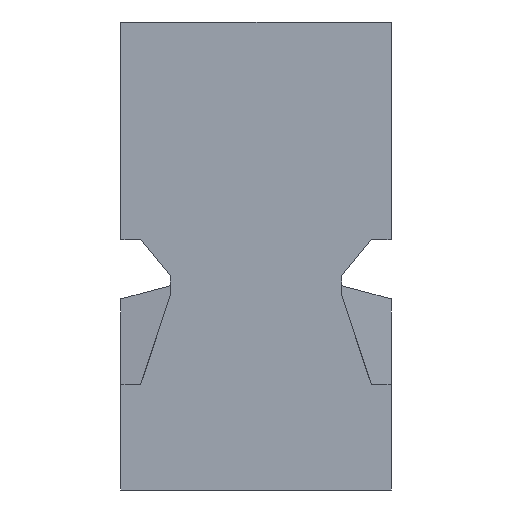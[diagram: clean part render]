
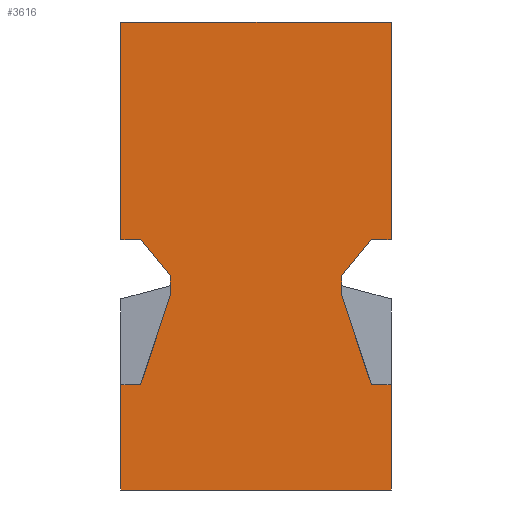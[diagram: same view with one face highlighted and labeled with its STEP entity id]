
A CAD part, left-side view. The second image highlights one B-rep face of the part: STEP entity #3616.
In plain terms, the highlighted planar face has unit normal (-1, 0, 0).
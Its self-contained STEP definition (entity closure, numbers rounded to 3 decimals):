
#1=DIRECTION('',(0.,0.,1.));
#2=VECTOR('',#1,1.6);
#3=CARTESIAN_POINT('',(-5.2,0.,-7.1));
#4=LINE('311',#3,#2);
#5=DIRECTION('',(0.,-1.,0.));
#6=VECTOR('',#5,0.3);
#7=CARTESIAN_POINT('',(-5.2,0.,-5.5));
#8=LINE('350',#7,#6);
#9=DIRECTION('',(0.,-0.316,0.949));
#10=VECTOR('',#9,1.423);
#11=CARTESIAN_POINT('',(-5.2,-0.3,-5.5));
#12=LINE('351',#11,#10);
#13=DIRECTION('',(0.,0.,1.));
#14=VECTOR('',#13,0.3);
#15=CARTESIAN_POINT('',(-5.2,-0.75,-4.15));
#16=LINE('312',#15,#14);
#17=DIRECTION('',(0.,0.633,0.774));
#18=VECTOR('',#17,0.711);
#19=CARTESIAN_POINT('',(-5.2,-0.75,-3.85));
#20=LINE('313',#19,#18);
#21=DIRECTION('',(0.,1.,0.));
#22=VECTOR('',#21,0.3);
#23=CARTESIAN_POINT('',(-5.2,-0.3,-3.3));
#24=LINE('314',#23,#22);
#25=DIRECTION('',(0.,0.,1.));
#26=VECTOR('',#25,3.3);
#27=CARTESIAN_POINT('',(-5.2,0.,-3.3));
#28=LINE('315',#27,#26);
#29=DIRECTION('',(0.,-1.,0.));
#30=VECTOR('',#29,4.1);
#31=CARTESIAN_POINT('',(-5.2,0.,0.));
#32=LINE('240',#31,#30);
#33=DIRECTION('',(0.,0.,-1.));
#34=VECTOR('',#33,3.3);
#35=CARTESIAN_POINT('',(-5.2,-4.1,0.));
#36=LINE('332',#35,#34);
#37=DIRECTION('',(0.,1.,0.));
#38=VECTOR('',#37,0.3);
#39=CARTESIAN_POINT('',(-5.2,-4.1,-3.3));
#40=LINE('333',#39,#38);
#41=DIRECTION('',(0.,0.633,-0.774));
#42=VECTOR('',#41,0.711);
#43=CARTESIAN_POINT('',(-5.2,-3.8,-3.3));
#44=LINE('334',#43,#42);
#45=DIRECTION('',(0.,0.,-1.));
#46=VECTOR('',#45,0.3);
#47=CARTESIAN_POINT('',(-5.2,-3.35,-3.85));
#48=LINE('335',#47,#46);
#49=DIRECTION('',(0.,-0.316,-0.949));
#50=VECTOR('',#49,1.423);
#51=CARTESIAN_POINT('',(-5.2,-3.35,-4.15));
#52=LINE('352',#51,#50);
#53=DIRECTION('',(0.,-1.,0.));
#54=VECTOR('',#53,0.3);
#55=CARTESIAN_POINT('',(-5.2,-3.8,-5.5));
#56=LINE('353',#55,#54);
#57=DIRECTION('',(0.,0.,-1.));
#58=VECTOR('',#57,1.6);
#59=CARTESIAN_POINT('',(-5.2,-4.1,-5.5));
#60=LINE('241',#59,#58);
#61=DIRECTION('',(0.,1.,0.));
#62=VECTOR('',#61,4.1);
#63=CARTESIAN_POINT('',(-5.2,-4.1,-7.1));
#64=LINE('242',#63,#62);
#2713=CARTESIAN_POINT('',(-5.2,0.,0.));
#2714=CARTESIAN_POINT('',(-5.2,-4.1,0.));
#2715=VERTEX_POINT('',#2713);
#2716=VERTEX_POINT('',#2714);
#2717=CARTESIAN_POINT('',(-5.2,-4.1,-5.5));
#2718=CARTESIAN_POINT('',(-5.2,-4.1,-7.1));
#2719=VERTEX_POINT('',#2717);
#2720=VERTEX_POINT('',#2718);
#2721=CARTESIAN_POINT('',(-5.2,0.,-7.1));
#2722=VERTEX_POINT('',#2721);
#2821=CARTESIAN_POINT('',(-5.2,0.,-5.5));
#2822=VERTEX_POINT('',#2821);
#2823=CARTESIAN_POINT('',(-5.2,-0.75,-4.15));
#2824=CARTESIAN_POINT('',(-5.2,-0.75,-3.85));
#2825=VERTEX_POINT('',#2823);
#2826=VERTEX_POINT('',#2824);
#2827=CARTESIAN_POINT('',(-5.2,-0.3,-3.3));
#2828=VERTEX_POINT('',#2827);
#2829=CARTESIAN_POINT('',(-5.2,0.,-3.3));
#2830=VERTEX_POINT('',#2829);
#2853=CARTESIAN_POINT('',(-5.2,-4.1,-3.3));
#2854=VERTEX_POINT('',#2853);
#2855=CARTESIAN_POINT('',(-5.2,-3.8,-3.3));
#2856=VERTEX_POINT('',#2855);
#2857=CARTESIAN_POINT('',(-5.2,-3.35,-3.85));
#2858=VERTEX_POINT('',#2857);
#2859=CARTESIAN_POINT('',(-5.2,-3.35,-4.15));
#2860=VERTEX_POINT('',#2859);
#2881=CARTESIAN_POINT('',(-5.2,-0.3,-5.5));
#2882=VERTEX_POINT('',#2881);
#2883=CARTESIAN_POINT('',(-5.2,-3.8,-5.5));
#2884=VERTEX_POINT('',#2883);
#3577=CARTESIAN_POINT('',(-5.2,0.,0.));
#3578=DIRECTION('',(1.,0.,0.));
#3579=DIRECTION('',(0.,-1.,0.));
#3580=AXIS2_PLACEMENT_3D('',#3577,#3578,#3579);
#3581=PLANE('2',#3580);
#3583=ORIENTED_EDGE('311',*,*,#3582,.T.);
#3585=ORIENTED_EDGE('350',*,*,#3584,.T.);
#3587=ORIENTED_EDGE('351',*,*,#3586,.T.);
#3589=ORIENTED_EDGE('312',*,*,#3588,.T.);
#3591=ORIENTED_EDGE('313',*,*,#3590,.T.);
#3593=ORIENTED_EDGE('314',*,*,#3592,.T.);
#3595=ORIENTED_EDGE('315',*,*,#3594,.T.);
#3597=ORIENTED_EDGE('240',*,*,#3596,.T.);
#3599=ORIENTED_EDGE('332',*,*,#3598,.T.);
#3601=ORIENTED_EDGE('333',*,*,#3600,.T.);
#3603=ORIENTED_EDGE('334',*,*,#3602,.T.);
#3605=ORIENTED_EDGE('335',*,*,#3604,.T.);
#3607=ORIENTED_EDGE('352',*,*,#3606,.T.);
#3609=ORIENTED_EDGE('353',*,*,#3608,.T.);
#3611=ORIENTED_EDGE('241',*,*,#3610,.T.);
#3613=ORIENTED_EDGE('242',*,*,#3612,.T.);
#3614=EDGE_LOOP('2',(#3583,#3585,#3587,#3589,#3591,#3593,#3595,#3597,#3599,
#3601,#3603,#3605,#3607,#3609,#3611,#3613));
#3615=FACE_OUTER_BOUND('2',#3614,.F.);
#3616=ADVANCED_FACE('2',(#3615),#3581,.F.);
#3582=EDGE_CURVE('311',#2722,#2822,#4,.T.);
#3584=EDGE_CURVE('350',#2822,#2882,#8,.T.);
#3586=EDGE_CURVE('351',#2882,#2825,#12,.T.);
#3588=EDGE_CURVE('312',#2825,#2826,#16,.T.);
#3590=EDGE_CURVE('313',#2826,#2828,#20,.T.);
#3592=EDGE_CURVE('314',#2828,#2830,#24,.T.);
#3594=EDGE_CURVE('315',#2830,#2715,#28,.T.);
#3596=EDGE_CURVE('240',#2715,#2716,#32,.T.);
#3598=EDGE_CURVE('332',#2716,#2854,#36,.T.);
#3600=EDGE_CURVE('333',#2854,#2856,#40,.T.);
#3602=EDGE_CURVE('334',#2856,#2858,#44,.T.);
#3604=EDGE_CURVE('335',#2858,#2860,#48,.T.);
#3606=EDGE_CURVE('352',#2860,#2884,#52,.T.);
#3608=EDGE_CURVE('353',#2884,#2719,#56,.T.);
#3610=EDGE_CURVE('241',#2719,#2720,#60,.T.);
#3612=EDGE_CURVE('242',#2720,#2722,#64,.T.);
